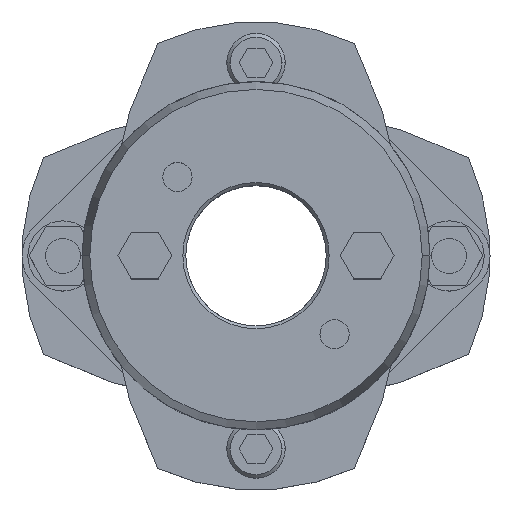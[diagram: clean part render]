
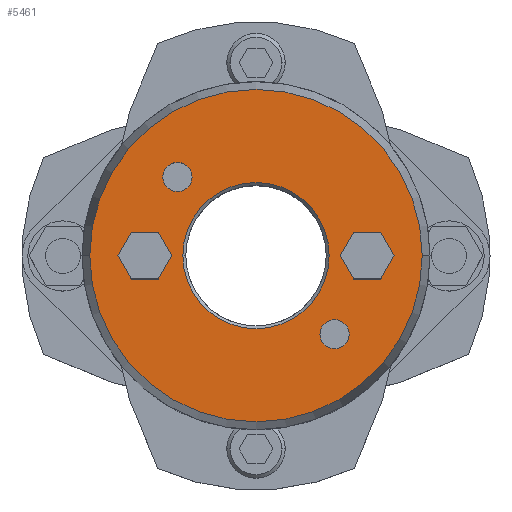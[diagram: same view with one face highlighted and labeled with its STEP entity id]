
A CAD part, top view. The second image highlights one B-rep face of the part: STEP entity #5461.
In plain terms, the highlighted planar face has unit normal (0, 0, 1).
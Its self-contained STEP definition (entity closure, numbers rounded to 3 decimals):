
#857=CARTESIAN_POINT('',(-12.5,0.,35.875));
#858=VERTEX_POINT('',#857);
#874=CARTESIAN_POINT('',(12.5,0.,35.875));
#875=VERTEX_POINT('',#874);
#882=CARTESIAN_POINT('',(0.,0.,35.875));
#883=DIRECTION('',(0.0,0.0,1.0));
#884=DIRECTION('',(-1.0,0.0,0.0));
#885=AXIS2_PLACEMENT_3D('',#882,#883,#884);
#886=CIRCLE('',#885,12.5);
#887=EDGE_CURVE('',#875,#858,#886,.T.);
#1003=CARTESIAN_POINT('',(28.41,0.,35.875));
#1004=VERTEX_POINT('',#1003);
#1013=CARTESIAN_POINT('',(-28.41,0.,35.875));
#1014=VERTEX_POINT('',#1013);
#1015=CARTESIAN_POINT('',(0.,0.,35.875));
#1016=DIRECTION('',(0.0,0.0,-1.0));
#1017=DIRECTION('',(1.0,0.0,0.0));
#1018=AXIS2_PLACEMENT_3D('',#1015,#1016,#1017);
#1019=CIRCLE('',#1018,28.41);
#1020=EDGE_CURVE('',#1004,#1014,#1019,.T.);
#1189=CARTESIAN_POINT('',(-15.935,13.435,35.875));
#1190=VERTEX_POINT('',#1189);
#1206=CARTESIAN_POINT('',(-10.935,13.435,35.875));
#1207=VERTEX_POINT('',#1206);
#1214=CARTESIAN_POINT('',(-13.435,13.435,35.875));
#1215=DIRECTION('',(0.0,0.0,-1.0));
#1216=DIRECTION('',(-1.0,0.0,0.0));
#1217=AXIS2_PLACEMENT_3D('',#1214,#1215,#1216);
#1218=CIRCLE('',#1217,2.5);
#1219=EDGE_CURVE('',#1190,#1207,#1218,.T.);
#1231=CARTESIAN_POINT('',(10.935,-13.435,35.875));
#1232=VERTEX_POINT('',#1231);
#1248=CARTESIAN_POINT('',(15.935,-13.435,35.875));
#1249=VERTEX_POINT('',#1248);
#1256=CARTESIAN_POINT('',(13.435,-13.435,35.875));
#1257=DIRECTION('',(0.0,0.0,-1.0));
#1258=DIRECTION('',(-1.0,0.0,0.0));
#1259=AXIS2_PLACEMENT_3D('',#1256,#1257,#1258);
#1260=CIRCLE('',#1259,2.5);
#1261=EDGE_CURVE('',#1232,#1249,#1260,.T.);
#4587=CARTESIAN_POINT('',(14.381,0.,35.875));
#4588=VERTEX_POINT('',#4587);
#4595=CARTESIAN_POINT('',(16.691,-4.,35.875));
#4596=VERTEX_POINT('',#4595);
#4597=CARTESIAN_POINT('',(16.691,-4.,35.875));
#4598=DIRECTION('',(-0.5,0.866,0.0));
#4599=VECTOR('',#4598,4.619);
#4600=LINE('',#4597,#4599);
#4601=EDGE_CURVE('',#4596,#4588,#4600,.T.);
#4625=CARTESIAN_POINT('',(16.691,4.,35.875));
#4626=VERTEX_POINT('',#4625);
#4633=CARTESIAN_POINT('',(14.381,0.,35.875));
#4634=DIRECTION('',(0.5,0.866,0.0));
#4635=VECTOR('',#4634,4.619);
#4636=LINE('',#4633,#4635);
#4637=EDGE_CURVE('',#4588,#4626,#4636,.T.);
#4656=CARTESIAN_POINT('',(21.309,4.,35.875));
#4657=VERTEX_POINT('',#4656);
#4664=CARTESIAN_POINT('',(16.691,4.,35.875));
#4665=DIRECTION('',(1.0,0.0,0.0));
#4666=VECTOR('',#4665,4.619);
#4667=LINE('',#4664,#4666);
#4668=EDGE_CURVE('',#4626,#4657,#4667,.T.);
#4687=CARTESIAN_POINT('',(23.619,0.,35.875));
#4688=VERTEX_POINT('',#4687);
#4695=CARTESIAN_POINT('',(21.309,4.,35.875));
#4696=DIRECTION('',(0.5,-0.866,0.0));
#4697=VECTOR('',#4696,4.619);
#4698=LINE('',#4695,#4697);
#4699=EDGE_CURVE('',#4657,#4688,#4698,.T.);
#4718=CARTESIAN_POINT('',(21.309,-4.,35.875));
#4719=VERTEX_POINT('',#4718);
#4726=CARTESIAN_POINT('',(23.619,0.,35.875));
#4727=DIRECTION('',(-0.5,-0.866,0.0));
#4728=VECTOR('',#4727,4.619);
#4729=LINE('',#4726,#4728);
#4730=EDGE_CURVE('',#4688,#4719,#4729,.T.);
#4748=CARTESIAN_POINT('',(21.309,-4.,35.875));
#4749=DIRECTION('',(-1.0,0.0,0.0));
#4750=VECTOR('',#4749,4.619);
#4751=LINE('',#4748,#4750);
#4752=EDGE_CURVE('',#4719,#4596,#4751,.T.);
#4787=CARTESIAN_POINT('',(-23.619,0.,35.875));
#4788=VERTEX_POINT('',#4787);
#4795=CARTESIAN_POINT('',(-21.309,-4.,35.875));
#4796=VERTEX_POINT('',#4795);
#4797=CARTESIAN_POINT('',(-21.309,-4.,35.875));
#4798=DIRECTION('',(-0.5,0.866,0.0));
#4799=VECTOR('',#4798,4.619);
#4800=LINE('',#4797,#4799);
#4801=EDGE_CURVE('',#4796,#4788,#4800,.T.);
#4825=CARTESIAN_POINT('',(-21.309,4.,35.875));
#4826=VERTEX_POINT('',#4825);
#4833=CARTESIAN_POINT('',(-23.619,0.,35.875));
#4834=DIRECTION('',(0.5,0.866,0.0));
#4835=VECTOR('',#4834,4.619);
#4836=LINE('',#4833,#4835);
#4837=EDGE_CURVE('',#4788,#4826,#4836,.T.);
#4856=CARTESIAN_POINT('',(-16.691,4.,35.875));
#4857=VERTEX_POINT('',#4856);
#4864=CARTESIAN_POINT('',(-21.309,4.,35.875));
#4865=DIRECTION('',(1.0,0.0,0.0));
#4866=VECTOR('',#4865,4.619);
#4867=LINE('',#4864,#4866);
#4868=EDGE_CURVE('',#4826,#4857,#4867,.T.);
#4887=CARTESIAN_POINT('',(-14.381,0.,35.875));
#4888=VERTEX_POINT('',#4887);
#4895=CARTESIAN_POINT('',(-16.691,4.,35.875));
#4896=DIRECTION('',(0.5,-0.866,0.0));
#4897=VECTOR('',#4896,4.619);
#4898=LINE('',#4895,#4897);
#4899=EDGE_CURVE('',#4857,#4888,#4898,.T.);
#4918=CARTESIAN_POINT('',(-16.691,-4.,35.875));
#4919=VERTEX_POINT('',#4918);
#4926=CARTESIAN_POINT('',(-14.381,0.,35.875));
#4927=DIRECTION('',(-0.5,-0.866,0.0));
#4928=VECTOR('',#4927,4.619);
#4929=LINE('',#4926,#4928);
#4930=EDGE_CURVE('',#4888,#4919,#4929,.T.);
#4948=CARTESIAN_POINT('',(-16.691,-4.,35.875));
#4949=DIRECTION('',(-1.0,0.0,0.0));
#4950=VECTOR('',#4949,4.619);
#4951=LINE('',#4948,#4950);
#4952=EDGE_CURVE('',#4919,#4796,#4951,.T.);
#4978=CARTESIAN_POINT('',(13.435,-13.435,35.875));
#4979=DIRECTION('',(0.0,0.0,-1.0));
#4980=DIRECTION('',(-1.0,0.0,0.0));
#4981=AXIS2_PLACEMENT_3D('',#4978,#4979,#4980);
#4982=CIRCLE('',#4981,2.5);
#4983=EDGE_CURVE('',#1249,#1232,#4982,.T.);
#5012=CARTESIAN_POINT('',(-13.435,13.435,35.875));
#5013=DIRECTION('',(0.0,0.0,-1.0));
#5014=DIRECTION('',(-1.0,0.0,0.0));
#5015=AXIS2_PLACEMENT_3D('',#5012,#5013,#5014);
#5016=CIRCLE('',#5015,2.5);
#5017=EDGE_CURVE('',#1207,#1190,#5016,.T.);
#5408=CARTESIAN_POINT('',(0.,0.,35.875));
#5409=DIRECTION('',(0.0,0.0,-1.0));
#5410=DIRECTION('',(1.0,0.0,0.0));
#5411=AXIS2_PLACEMENT_3D('',#5408,#5409,#5410);
#5412=CIRCLE('',#5411,28.41);
#5413=EDGE_CURVE('',#1014,#1004,#5412,.T.);
#5418=CARTESIAN_POINT('',(-2.364,0.,35.875));
#5419=DIRECTION('',(0.0,0.0,1.0));
#5420=DIRECTION('',(-1.0,0.0,0.0));
#5421=AXIS2_PLACEMENT_3D('',#5418,#5419,#5420);
#5422=PLANE('',#5421);
#5423=ORIENTED_EDGE('',*,*,#5413,.F.);
#5424=ORIENTED_EDGE('',*,*,#1020,.F.);
#5425=EDGE_LOOP('',(#5423,#5424));
#5426=FACE_OUTER_BOUND('',#5425,.T.);
#5427=ORIENTED_EDGE('',*,*,#4601,.T.);
#5428=ORIENTED_EDGE('',*,*,#4637,.T.);
#5429=ORIENTED_EDGE('',*,*,#4668,.T.);
#5430=ORIENTED_EDGE('',*,*,#4699,.T.);
#5431=ORIENTED_EDGE('',*,*,#4730,.T.);
#5432=ORIENTED_EDGE('',*,*,#4752,.T.);
#5433=EDGE_LOOP('',(#5427,#5428,#5429,#5430,#5431,#5432));
#5434=FACE_BOUND('',#5433,.T.);
#5435=ORIENTED_EDGE('',*,*,#4801,.T.);
#5436=ORIENTED_EDGE('',*,*,#4837,.T.);
#5437=ORIENTED_EDGE('',*,*,#4868,.T.);
#5438=ORIENTED_EDGE('',*,*,#4899,.T.);
#5439=ORIENTED_EDGE('',*,*,#4930,.T.);
#5440=ORIENTED_EDGE('',*,*,#4952,.T.);
#5441=EDGE_LOOP('',(#5435,#5436,#5437,#5438,#5439,#5440));
#5442=FACE_BOUND('',#5441,.T.);
#5443=ORIENTED_EDGE('',*,*,#1261,.T.);
#5444=ORIENTED_EDGE('',*,*,#4983,.T.);
#5445=EDGE_LOOP('',(#5443,#5444));
#5446=FACE_BOUND('',#5445,.T.);
#5447=ORIENTED_EDGE('',*,*,#1219,.T.);
#5448=ORIENTED_EDGE('',*,*,#5017,.T.);
#5449=EDGE_LOOP('',(#5447,#5448));
#5450=FACE_BOUND('',#5449,.T.);
#5451=ORIENTED_EDGE('',*,*,#887,.F.);
#5452=CARTESIAN_POINT('',(0.,0.,35.875));
#5453=DIRECTION('',(0.0,0.0,1.0));
#5454=DIRECTION('',(-1.0,0.0,0.0));
#5455=AXIS2_PLACEMENT_3D('',#5452,#5453,#5454);
#5456=CIRCLE('',#5455,12.5);
#5457=EDGE_CURVE('',#858,#875,#5456,.T.);
#5458=ORIENTED_EDGE('',*,*,#5457,.F.);
#5459=EDGE_LOOP('',(#5451,#5458));
#5460=FACE_BOUND('',#5459,.T.);
#5461=ADVANCED_FACE('',(#5426,#5434,#5442,#5446,#5450,#5460),#5422,.T.);
